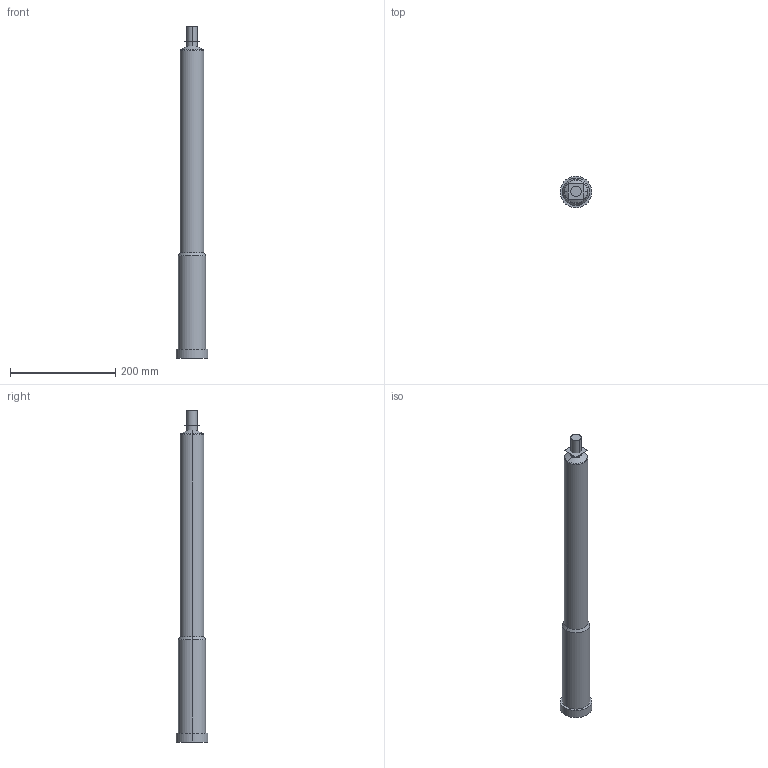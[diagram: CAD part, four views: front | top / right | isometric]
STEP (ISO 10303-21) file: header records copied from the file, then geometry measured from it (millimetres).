
FILE_DESCRIPTION (( 'STEP AP214' ), '1' );
FILE_NAME ('16E-06-600-##P.STEP', '2021-07-14T13:36:23', ( '' ), ( '' ), 'SwSTEP 2.0', 'SolidWorks 2018', '' );
FILE_SCHEMA (( 'AUTOMOTIVE_DESIGN' ));
Length unit declared in the file: millimetre
Products named in the file (3): nozzle_16E-06-600-##P; cutout_16E-06-600-##P; 16E-06-600-##P
Assembly tree (2 placements, depth 2):
  16E-06-600-##P
    nozzle_16E-06-600-##P
    cutout_16E-06-600-##P
Bounding box: 60 x 60 x 630 mm (x, y, z)
Volume: 1064424.8 mm3; surface area: 313829.2 mm2
Topology: 1 solids, 4 shells, 319 faces, 937 edges, 578 vertices
Faces by surface type: plane 132, cylinder 131, torus 31, cone 25
Entity records: 11571 total; most frequent: CARTESIAN_POINT 2678, DIRECTION 1974, ORIENTED_EDGE 1870, EDGE_CURVE 937, AXIS2_PLACEMENT_3D 774, VERTEX_POINT 578, CIRCLE 449, VECTOR 426
